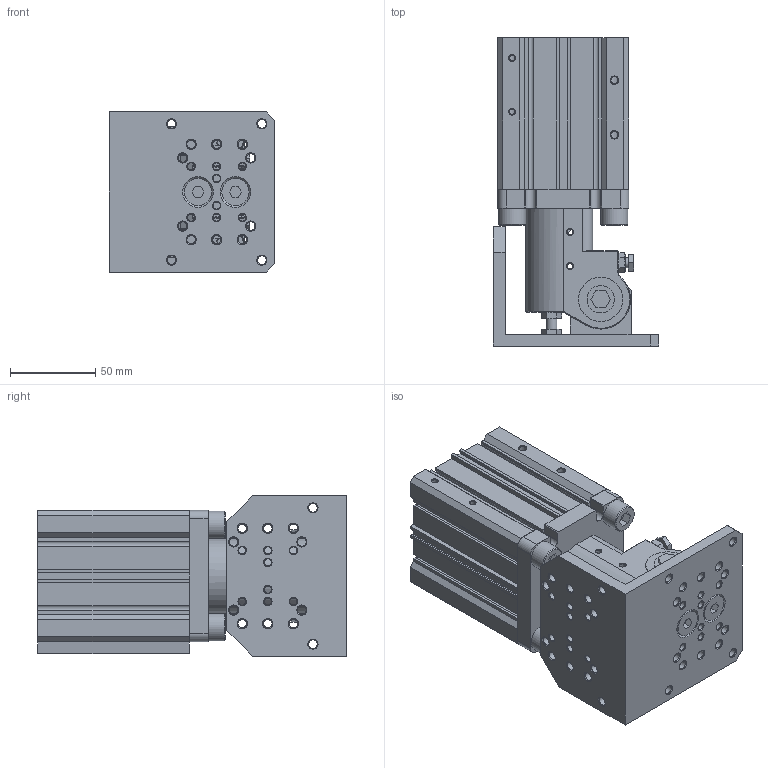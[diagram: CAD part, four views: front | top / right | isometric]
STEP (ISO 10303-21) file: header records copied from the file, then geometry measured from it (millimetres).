
FILE_DESCRIPTION(/* description */ (''),/* implementation_level */ '2;1');
FILE_NAME(/* name */ '_model1.stp',/* time_stamp */ '2023-05-31T09:15:34+08:00',/* author */ (''),/* organization */ (''),/* preprocessor_version */ 'ST-DEVELOPER v14',/* originating_system */ 'SIEMENS PLM Software NX 8.0',/* authorisation */ '');
FILE_SCHEMA (('AP203_CONFIGURATION_CONTROLLED_3D_DESIGN_OF_MECHANICAL_PARTS_AND_ASSEMBLIES_MIM_LF { 1 0 10303 403 2 1 2}'));
Length unit declared in the file: millimetre
Products named in the file (1): Admi0FF02E9Cg4is
Bounding box: 97 x 181.02 x 94 mm (x, y, z)
Volume: 725113.4 mm3; surface area: 177436.8 mm2
Topology: 31 solids, 32 shells, 866 faces, 2150 edges, 1397 vertices
Faces by surface type: plane 441, cylinder 199, cone 192, sphere 24, torus 6, bspline 4
Full cylindrical faces by diameter (mm): 2 x2, 2.5 x7, 3 x2, 3.3 x6, 4.2 x18, 5 x36, 6 x10, 6.2 x1, 6.75 x2, 8 x2, 8.5 x6, 10 x4, 10.6 x4, 11.6 x2, 12 x10, 16 x8, 20 x5, 20.5 x1, 22.8 x1, 23 x2, 24 x2, 26 x2, 28 x1, 38 x2, 38.5 x1, 64.8 x1, 65 x3, 68.5 x2
Entity records: 26539 total; most frequent: CARTESIAN_POINT 7398, DIRECTION 3909, ORIENTED_EDGE 3442, EDGE_CURVE 1721, AXIS2_PLACEMENT_3D 1488, EDGE_LOOP 1384, VERTEX_POINT 1269, LINE 933
